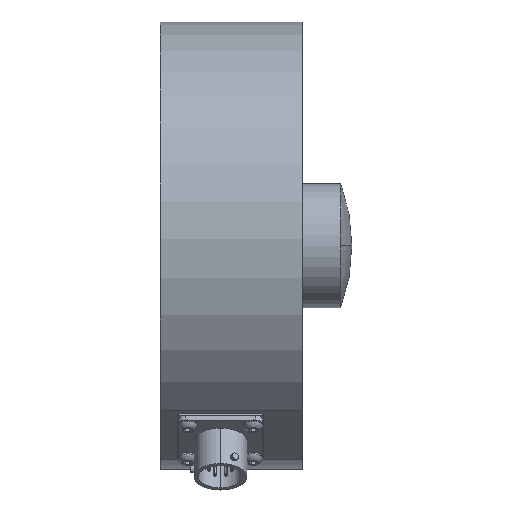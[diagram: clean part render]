
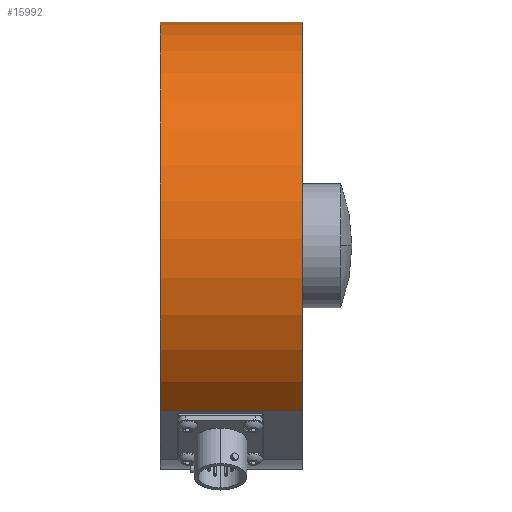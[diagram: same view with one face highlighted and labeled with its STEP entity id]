
A CAD part, left-side view. The second image highlights one B-rep face of the part: STEP entity #15992.
In plain terms, the highlighted cylindrical face has radius 63 mm (diameter 126 mm), a partial arc.
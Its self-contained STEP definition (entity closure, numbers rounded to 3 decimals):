
#777 = DIRECTION ( 'NONE',  ( 0., 1., 0. ) ) ;
#1292 = ORIENTED_EDGE ( 'NONE', *, *, #5172, .T. ) ;
#1455 = CARTESIAN_POINT ( 'NONE',  ( 0., 11.283, 0. ) ) ;
#1560 = DIRECTION ( 'NONE',  ( 0., 0., 1. ) ) ;
#1572 = FACE_OUTER_BOUND ( 'NONE', #12221, .T. ) ;
#1906 = AXIS2_PLACEMENT_3D ( 'NONE', #1455, #2910, #1560 ) ;
#2595 = ORIENTED_EDGE ( 'NONE', *, *, #10935, .F. ) ;
#2910 = DIRECTION ( 'NONE',  ( 0., 1., 0. ) ) ;
#2981 = EDGE_CURVE ( 'NONE', #9513, #13593, #16361, .T. ) ;
#3375 = CARTESIAN_POINT ( 'NONE',  ( 0., 0., 0. ) ) ;
#3769 = CARTESIAN_POINT ( 'NONE',  ( -42.585, 0., -46.428 ) ) ;
#3977 = VECTOR ( 'NONE', #11496, 1000. ) ;
#4088 = CARTESIAN_POINT ( 'NONE',  ( -42.585, -40., -46.428 ) ) ;
#4265 = CYLINDRICAL_SURFACE ( 'NONE', #1906, 63. ) ;
#4278 = CIRCLE ( 'NONE', #5928, 63. ) ;
#4708 = DIRECTION ( 'NONE',  ( 0., 0., 1. ) ) ;
#5020 = CARTESIAN_POINT ( 'NONE',  ( 0., -40., 0. ) ) ;
#5172 = EDGE_CURVE ( 'NONE', #9677, #8624, #14603, .T. ) ;
#5656 = ORIENTED_EDGE ( 'NONE', *, *, #15593, .T. ) ;
#5928 = AXIS2_PLACEMENT_3D ( 'NONE', #3375, #12708, #4708 ) ;
#6213 = CARTESIAN_POINT ( 'NONE',  ( -42.585, 11.283, -46.428 ) ) ;
#6368 = DIRECTION ( 'NONE',  ( 0., 0., 1. ) ) ;
#8624 = VERTEX_POINT ( 'NONE', #4088 ) ;
#8741 = CARTESIAN_POINT ( 'NONE',  ( 0., 11.283, 63. ) ) ;
#8861 = VECTOR ( 'NONE', #777, 1000. ) ;
#8928 = ORIENTED_EDGE ( 'NONE', *, *, #2981, .T. ) ;
#8986 = CARTESIAN_POINT ( 'NONE',  ( 0., 0., 63. ) ) ;
#9513 = VERTEX_POINT ( 'NONE', #14163 ) ;
#9668 = AXIS2_PLACEMENT_3D ( 'NONE', #5020, #14347, #6368 ) ;
#9677 = VERTEX_POINT ( 'NONE', #3769 ) ;
#10935 = EDGE_CURVE ( 'NONE', #9677, #13593, #4278, .T. ) ;
#11496 = DIRECTION ( 'NONE',  ( 0., -1., 0. ) ) ;
#12221 = EDGE_LOOP ( 'NONE', ( #5656, #8928, #2595, #1292 ) ) ;
#12708 = DIRECTION ( 'NONE',  ( 0., 1., 0. ) ) ;
#13593 = VERTEX_POINT ( 'NONE', #8986 ) ;
#14163 = CARTESIAN_POINT ( 'NONE',  ( 0., -40., 63. ) ) ;
#14347 = DIRECTION ( 'NONE',  ( 0., 1., 0. ) ) ;
#14603 = LINE ( 'NONE', #6213, #3977 ) ;
#15593 = EDGE_CURVE ( 'NONE', #8624, #9513, #15956, .T. ) ;
#15956 = CIRCLE ( 'NONE', #9668, 63. ) ;
#15992 = ADVANCED_FACE ( 'NONE', ( #1572 ), #4265, .T. ) ;
#16361 = LINE ( 'NONE', #8741, #8861 ) ;
